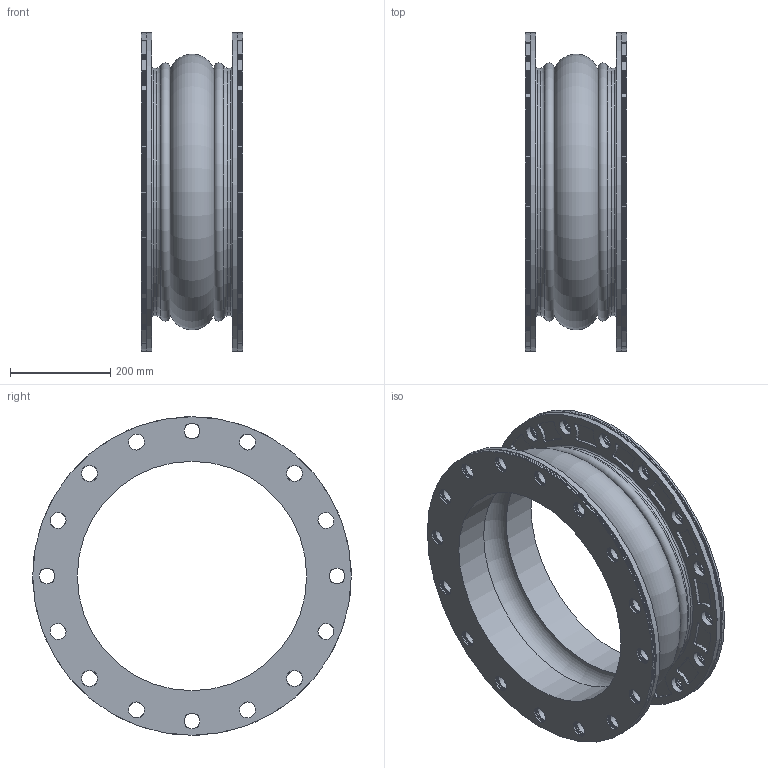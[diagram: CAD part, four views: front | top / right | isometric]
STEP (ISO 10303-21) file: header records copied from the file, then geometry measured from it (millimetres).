
FILE_DESCRIPTION((''),'2;1');
FILE_NAME('N:\StockJoints-ADSK, IGES, STEP, PNG\STEP\451 18x8.stp','2013-05-23T12:29:19',('mquog'),(''),'Autodesk Inventor 2011','Autodesk Inventor 2011','');
FILE_SCHEMA(('AUTOMOTIVE_DESIGN { 1 0 10303 214 1 1 1 1 }'));
Length unit declared in the file: inch
Products named in the file (3): 451 18x8; Style451 18x8; 18DI450BUR150
Assembly tree (3 placements, depth 2):
  451 18x8
    Style451 18x8
    18DI450BUR150  x2
Bounding box: 203.2 x 635 x 635 mm (x, y, z)
Volume: 10414259.3 mm3; surface area: 9665988.3 mm2
Topology: 14 solids, 14 shells, 690 faces, 1790 edges, 1170 vertices
Faces by surface type: cylinder 564, plane 70, torus 52, cone 4
Full cylindrical faces by diameter (mm): 31.75 x256, 457.2 x2, 463.55 x4, 469.9 x8, 471.932 x4, 473.964 x4, 475.996 x4, 478.028 x4, 481.203 x2, 488.95 x2, 631.825 x14, 635 x4
Entity records: 15743 total; most frequent: DIRECTION 2924, CARTESIAN_POINT 2398, ORIENTED_EDGE 2000, AXIS2_PLACEMENT_3D 1398, EDGE_LOOP 1392, EDGE_CURVE 1000, VERTEX_POINT 872, CIRCLE 872
